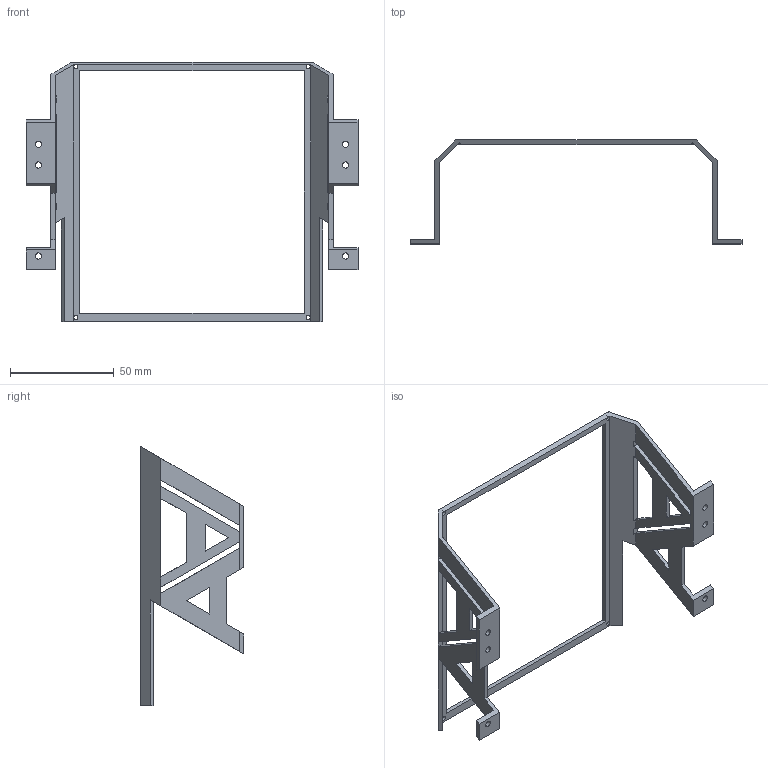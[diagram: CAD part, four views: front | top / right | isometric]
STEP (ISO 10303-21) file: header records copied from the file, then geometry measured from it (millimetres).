
FILE_DESCRIPTION (( 'STEP AP214' ), '1' );
FILE_NAME ('俋褲笢潔菴珨唳.STEP', '2023-02-23T03:25:54', ( '' ), ( '' ), 'SwSTEP 2.0', 'SolidWorks 2022', '' );
FILE_SCHEMA (( 'AUTOMOTIVE_DESIGN' ));
Length unit declared in the file: millimetre
Products named in the file (1): 外壳中间第一版
Bounding box: 160 x 50 x 125 mm (x, y, z)
Volume: 17714.1 mm3; surface area: 22001.8 mm2
Topology: 1 solids, 1 shells, 94 faces, 306 edges, 200 vertices
Faces by surface type: plane 74, cylinder 20
Entity records: 4169 total; most frequent: CARTESIAN_POINT 613, ORIENTED_EDGE 612, DIRECTION 532, EDGE_CURVE 306, VECTOR 262, LINE 262, VERTEX_POINT 200, AXIS2_PLACEMENT_3D 135
